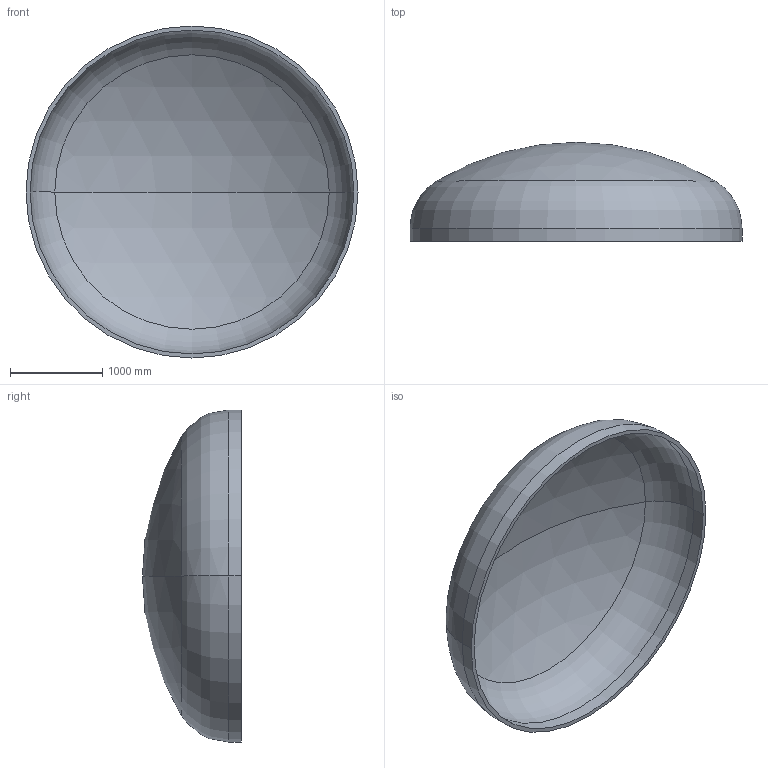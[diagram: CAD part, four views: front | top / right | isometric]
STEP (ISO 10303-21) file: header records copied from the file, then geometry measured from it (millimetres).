
FILE_DESCRIPTION (( 'STEP AP203' ), '1' );
FILE_NAME ('DIN 28013 Korbbogenform_-_Boden DIN 28013 - 3600 x 140 - I - s=44.step', '2016-07-01T20:27:23', ( '' ), ( '' ), 'SwSTEP 2.0', 'SolidWorks 2013', '' );
FILE_SCHEMA (( 'CONFIG_CONTROL_DESIGN' ));
Length unit declared in the file: millimetre
Products named in the file (1): DIN 28013 Korbbogenform_-_Boden DIN 28013 - 3600 x 140 - I - s=44
Bounding box: 3600 x 1073.22 x 3600 mm (x, y, z)
Volume: 679290990.8 mm3; surface area: 31372453.2 mm2
Topology: 1 solids, 1 shells, 13 faces, 24 edges, 14 vertices
Faces by surface type: torus 4, cylinder 4, sphere 4, plane 1
Entity records: 407 total; most frequent: DIRECTION 72, CARTESIAN_POINT 52, ORIENTED_EDGE 48, AXIS2_PLACEMENT_3D 34, EDGE_CURVE 24, CIRCLE 20, EDGE_LOOP 14, VERTEX_POINT 14
